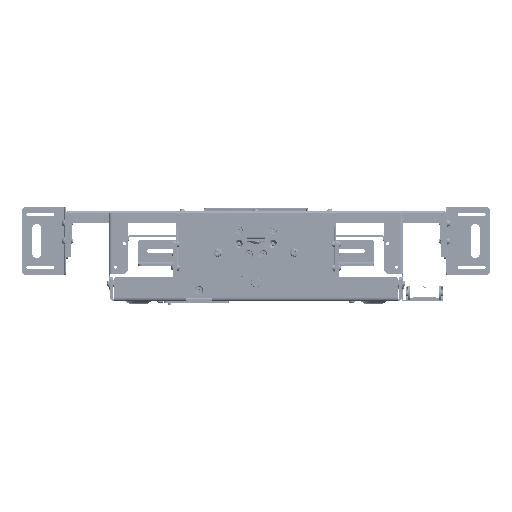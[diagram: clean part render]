
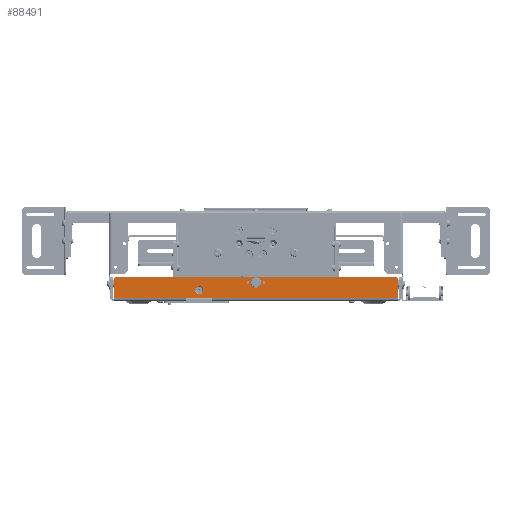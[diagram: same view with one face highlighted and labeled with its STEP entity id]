
A CAD part, front view. The second image highlights one B-rep face of the part: STEP entity #88491.
In plain terms, the highlighted planar face has unit normal (0, -1, 0).
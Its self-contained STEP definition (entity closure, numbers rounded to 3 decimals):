
#1323 = EDGE_CURVE ( 'NONE', #20533, #20533, #68248, .T. ) ;
#2050 = VECTOR ( 'NONE', #54549, 1000. ) ;
#2182 = CARTESIAN_POINT ( 'NONE',  ( -119.1, -6.2, 6.2 ) ) ;
#2211 = CARTESIAN_POINT ( 'NONE',  ( -241.3, -6.2, 6.2 ) ) ;
#2287 = ORIENTED_EDGE ( 'NONE', *, *, #1323, .T. ) ;
#4778 = AXIS2_PLACEMENT_3D ( 'NONE', #86558, #19579, #18620 ) ;
#5050 = DIRECTION ( 'NONE',  ( -1., 0., 0. ) ) ;
#8199 = CARTESIAN_POINT ( 'NONE',  ( 241.3, -6.2, 37. ) ) ;
#8867 = CARTESIAN_POINT ( 'NONE',  ( -13.5, -6.2, 32. ) ) ;
#10689 = CIRCLE ( 'NONE', #87719, 8.6 ) ;
#11517 = CARTESIAN_POINT ( 'NONE',  ( 236.3, -6.2, 37. ) ) ;
#11968 = VERTEX_POINT ( 'NONE', #20056 ) ;
#12186 = VERTEX_POINT ( 'NONE', #72757 ) ;
#12247 = LINE ( 'NONE', #80214, #94156 ) ;
#12585 = DIRECTION ( 'NONE',  ( 0., 1., 0. ) ) ;
#12916 = VERTEX_POINT ( 'NONE', #50714 ) ;
#13615 = EDGE_CURVE ( 'NONE', #23801, #71793, #38238, .T. ) ;
#13759 = DIRECTION ( 'NONE',  ( 0., 0., 1. ) ) ;
#13942 = CARTESIAN_POINT ( 'NONE',  ( -74.1, -6.2, 6.2 ) ) ;
#14774 = CARTESIAN_POINT ( 'NONE',  ( 0., -6.2, 32. ) ) ;
#16608 = VECTOR ( 'NONE', #51082, 1000. ) ;
#17199 = LINE ( 'NONE', #63954, #52562 ) ;
#17898 = AXIS2_PLACEMENT_3D ( 'NONE', #19444, #56395, #71193 ) ;
#18177 = CIRCLE ( 'NONE', #81114, 2.325 ) ;
#18369 = AXIS2_PLACEMENT_3D ( 'NONE', #68270, #51550, #77951 ) ;
#18620 = DIRECTION ( 'NONE',  ( 0., 0., 1. ) ) ;
#18733 = ORIENTED_EDGE ( 'NONE', *, *, #56094, .F. ) ;
#18912 = DIRECTION ( 'NONE',  ( 0., 0., 1. ) ) ;
#18943 = ORIENTED_EDGE ( 'NONE', *, *, #39982, .F. ) ;
#18969 = FACE_BOUND ( 'NONE', #19370, .T. ) ;
#19370 = EDGE_LOOP ( 'NONE', ( #75028 ) ) ;
#19444 = CARTESIAN_POINT ( 'NONE',  ( -241.3, -6.2, 42. ) ) ;
#19579 = DIRECTION ( 'NONE',  ( 0., -1., 0. ) ) ;
#20056 = CARTESIAN_POINT ( 'NONE',  ( 241.3, -6.2, 6.2 ) ) ;
#20533 = VERTEX_POINT ( 'NONE', #50566 ) ;
#21360 = ORIENTED_EDGE ( 'NONE', *, *, #24608, .T. ) ;
#21640 = ORIENTED_EDGE ( 'NONE', *, *, #92192, .T. ) ;
#23801 = VERTEX_POINT ( 'NONE', #53096 ) ;
#24608 = EDGE_CURVE ( 'NONE', #27553, #80585, #48294, .T. ) ;
#26779 = DIRECTION ( 'NONE',  ( 0., -1., 0. ) ) ;
#26835 = FACE_BOUND ( 'NONE', #42956, .T. ) ;
#27553 = VERTEX_POINT ( 'NONE', #8199 ) ;
#27593 = DIRECTION ( 'NONE',  ( -1., 0., 0. ) ) ;
#29792 = EDGE_CURVE ( 'NONE', #12916, #23801, #78726, .T. ) ;
#29974 = CARTESIAN_POINT ( 'NONE',  ( -241.3, -6.2, 6.2 ) ) ;
#32845 = EDGE_CURVE ( 'NONE', #12186, #12186, #10689, .T. ) ;
#33584 = CARTESIAN_POINT ( 'NONE',  ( -119.1, -6.2, 6.2 ) ) ;
#34746 = CARTESIAN_POINT ( 'NONE',  ( 13.5, -6.2, 32. ) ) ;
#34812 = CARTESIAN_POINT ( 'NONE',  ( 13.5, -6.2, 34.325 ) ) ;
#35171 = FACE_OUTER_BOUND ( 'NONE', #97262, .T. ) ;
#35473 = DIRECTION ( 'NONE',  ( 0., 0., 1. ) ) ;
#37274 = CARTESIAN_POINT ( 'NONE',  ( 236.3, -6.2, 42. ) ) ;
#38018 = EDGE_LOOP ( 'NONE', ( #21640 ) ) ;
#38238 = LINE ( 'NONE', #88985, #16608 ) ;
#39827 = DIRECTION ( 'NONE',  ( 0., 0., 1. ) ) ;
#39834 = DIRECTION ( 'NONE',  ( 0., 0., 1. ) ) ;
#39982 = EDGE_CURVE ( 'NONE', #68797, #68797, #67168, .T. ) ;
#42226 = VERTEX_POINT ( 'NONE', #34812 ) ;
#42956 = EDGE_LOOP ( 'NONE', ( #2287 ) ) ;
#45098 = ORIENTED_EDGE ( 'NONE', *, *, #71619, .F. ) ;
#45772 = ORIENTED_EDGE ( 'NONE', *, *, #29792, .T. ) ;
#48294 = CIRCLE ( 'NONE', #90731, 5. ) ;
#48322 = CARTESIAN_POINT ( 'NONE',  ( -241.3, -6.2, 42. ) ) ;
#50566 = CARTESIAN_POINT ( 'NONE',  ( -13.5, -6.2, 34.325 ) ) ;
#50714 = CARTESIAN_POINT ( 'NONE',  ( -236.3, -6.2, 42. ) ) ;
#50932 = AXIS2_PLACEMENT_3D ( 'NONE', #8867, #70396, #39827 ) ;
#51082 = DIRECTION ( 'NONE',  ( 0., 0., -1. ) ) ;
#51550 = DIRECTION ( 'NONE',  ( 0., -1., 0. ) ) ;
#52562 = VECTOR ( 'NONE', #39834, 1000. ) ;
#53096 = CARTESIAN_POINT ( 'NONE',  ( -241.3, -6.2, 37. ) ) ;
#54549 = DIRECTION ( 'NONE',  ( -1., 0., 0. ) ) ;
#56094 = EDGE_CURVE ( 'NONE', #11968, #67432, #61916, .T. ) ;
#56395 = DIRECTION ( 'NONE',  ( 0., 1., 0. ) ) ;
#56640 = EDGE_CURVE ( 'NONE', #67432, #83107, #94612, .T. ) ;
#59521 = ORIENTED_EDGE ( 'NONE', *, *, #82658, .T. ) ;
#61916 = LINE ( 'NONE', #29974, #2050 ) ;
#63954 = CARTESIAN_POINT ( 'NONE',  ( 241.3, -6.2, 42. ) ) ;
#64101 = ORIENTED_EDGE ( 'NONE', *, *, #13615, .T. ) ;
#65239 = PLANE ( 'NONE',  #17898 ) ;
#65952 = EDGE_CURVE ( 'NONE', #11968, #27553, #17199, .T. ) ;
#67168 = CIRCLE ( 'NONE', #18369, 7. ) ;
#67432 = VERTEX_POINT ( 'NONE', #13942 ) ;
#68248 = CIRCLE ( 'NONE', #50932, 2.325 ) ;
#68270 = CARTESIAN_POINT ( 'NONE',  ( -96.6, -6.2, 18.7 ) ) ;
#68766 = ORIENTED_EDGE ( 'NONE', *, *, #56640, .F. ) ;
#68797 = VERTEX_POINT ( 'NONE', #92350 ) ;
#70396 = DIRECTION ( 'NONE',  ( 0., 1., 0. ) ) ;
#71193 = DIRECTION ( 'NONE',  ( 0., 0., 1. ) ) ;
#71619 = EDGE_CURVE ( 'NONE', #83107, #71793, #12247, .T. ) ;
#71793 = VERTEX_POINT ( 'NONE', #2211 ) ;
#72444 = DIRECTION ( 'NONE',  ( 0., 1., 0. ) ) ;
#72757 = CARTESIAN_POINT ( 'NONE',  ( 0., -6.2, 40.6 ) ) ;
#75028 = ORIENTED_EDGE ( 'NONE', *, *, #32845, .T. ) ;
#77951 = DIRECTION ( 'NONE',  ( 0., 0., -1. ) ) ;
#78595 = FACE_BOUND ( 'NONE', #91830, .T. ) ;
#78726 = CIRCLE ( 'NONE', #4778, 5. ) ;
#80214 = CARTESIAN_POINT ( 'NONE',  ( -241.3, -6.2, 6.2 ) ) ;
#80585 = VERTEX_POINT ( 'NONE', #37274 ) ;
#81114 = AXIS2_PLACEMENT_3D ( 'NONE', #34746, #12585, #13759 ) ;
#82658 = EDGE_CURVE ( 'NONE', #80585, #12916, #87669, .T. ) ;
#83107 = VERTEX_POINT ( 'NONE', #2182 ) ;
#86558 = CARTESIAN_POINT ( 'NONE',  ( -236.3, -6.2, 37. ) ) ;
#87401 = FACE_BOUND ( 'NONE', #38018, .T. ) ;
#87669 = LINE ( 'NONE', #48322, #88144 ) ;
#87719 = AXIS2_PLACEMENT_3D ( 'NONE', #14774, #72444, #35473 ) ;
#88144 = VECTOR ( 'NONE', #27593, 1000. ) ;
#88357 = ORIENTED_EDGE ( 'NONE', *, *, #65952, .T. ) ;
#88491 = ADVANCED_FACE ( 'NONE', ( #26835, #87401, #18969, #35171, #78595 ), #65239, .F. ) ;
#88548 = VECTOR ( 'NONE', #5050, 1000. ) ;
#88985 = CARTESIAN_POINT ( 'NONE',  ( -241.3, -6.2, 42. ) ) ;
#90731 = AXIS2_PLACEMENT_3D ( 'NONE', #11517, #26779, #18912 ) ;
#91830 = EDGE_LOOP ( 'NONE', ( #18943 ) ) ;
#92192 = EDGE_CURVE ( 'NONE', #42226, #42226, #18177, .T. ) ;
#92350 = CARTESIAN_POINT ( 'NONE',  ( -96.6, -6.2, 11.7 ) ) ;
#94156 = VECTOR ( 'NONE', #95924, 1000. ) ;
#94612 = LINE ( 'NONE', #33584, #88548 ) ;
#95924 = DIRECTION ( 'NONE',  ( -1., 0., 0. ) ) ;
#97262 = EDGE_LOOP ( 'NONE', ( #88357, #21360, #59521, #45772, #64101, #45098, #68766, #18733 ) ) ;
